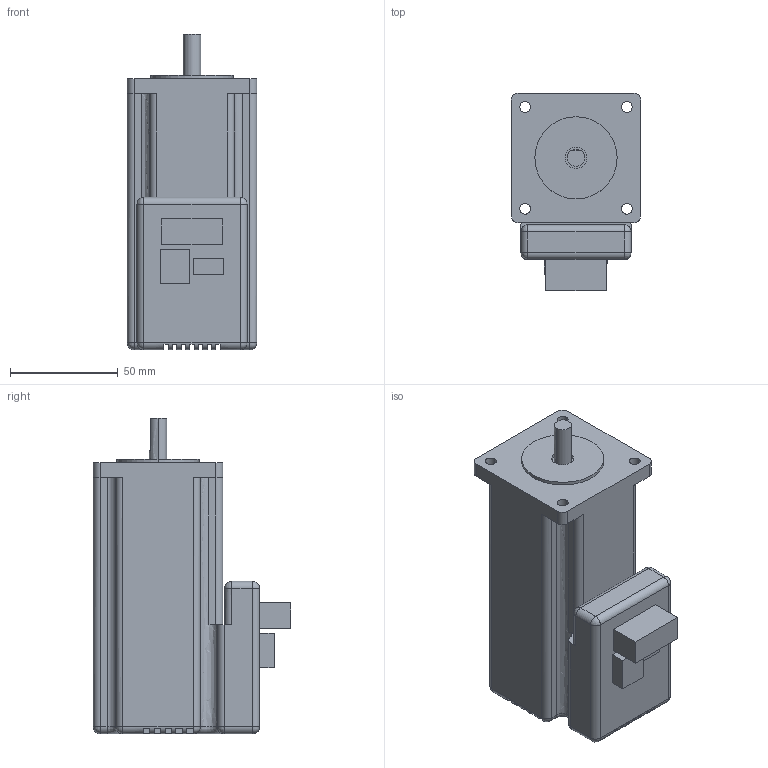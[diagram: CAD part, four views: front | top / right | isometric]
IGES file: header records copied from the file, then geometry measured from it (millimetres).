
Start section:  PTC IGES file: cu_ism-7413.igs
Global section: file name: cu_ism-7413.igs; native system: Creo Parametric by Parametric Technology Corporation; preprocessor: 2014000; author: jbuhisan; organization: Unknown; date: 20140801.140621; units: centimetre
Bounding box: 60 x 91.5 x 146.2 mm (x, y, z)
Surface area: 47709.4 mm2 (no closed solid volume)
Topology: 0 solids, 0 shells, 182 faces, 1058 edges, 1044 vertices
Faces by surface type: bspline 112, revolution 70
